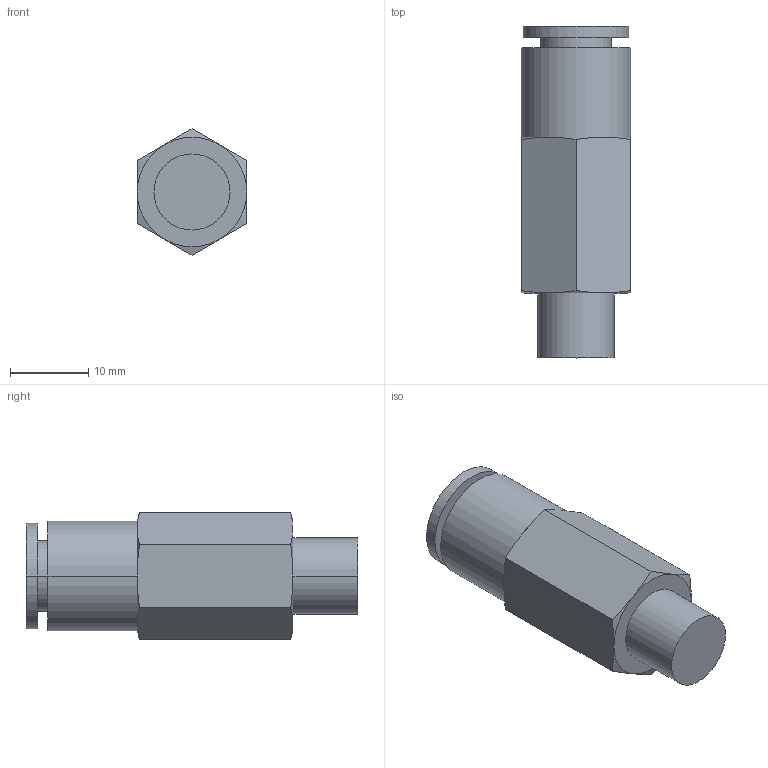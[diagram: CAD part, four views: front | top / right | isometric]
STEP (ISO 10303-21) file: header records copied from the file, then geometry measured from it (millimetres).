
FILE_DESCRIPTION( ( '' ), '1' );
FILE_NAME( 'G:/SMC狟婥/KCH08-01S.stp', '2023-03-08T06:00:25', ( '' ), ( '' ), ' ', ' ', ' ' );
FILE_SCHEMA( ( 'CONFIG_CONTROL_DESIGN' ) );
Length unit declared in the file: millimetre
Products named in the file (1): 1
Bounding box: 14 x 42.4 x 16.17 mm (x, y, z)
Volume: 4963.6 mm3; surface area: 2850.9 mm2
Topology: 1 solids, 1 shells, 34 faces, 70 edges, 42 vertices
Faces by surface type: plane 12, cone 12, cylinder 10
Entity records: 912 total; most frequent: CARTESIAN_POINT 195, DIRECTION 146, ORIENTED_EDGE 140, EDGE_CURVE 70, AXIS2_PLACEMENT_3D 65, VERTEX_POINT 42, EDGE_LOOP 38, ADVANCED_FACE 34
